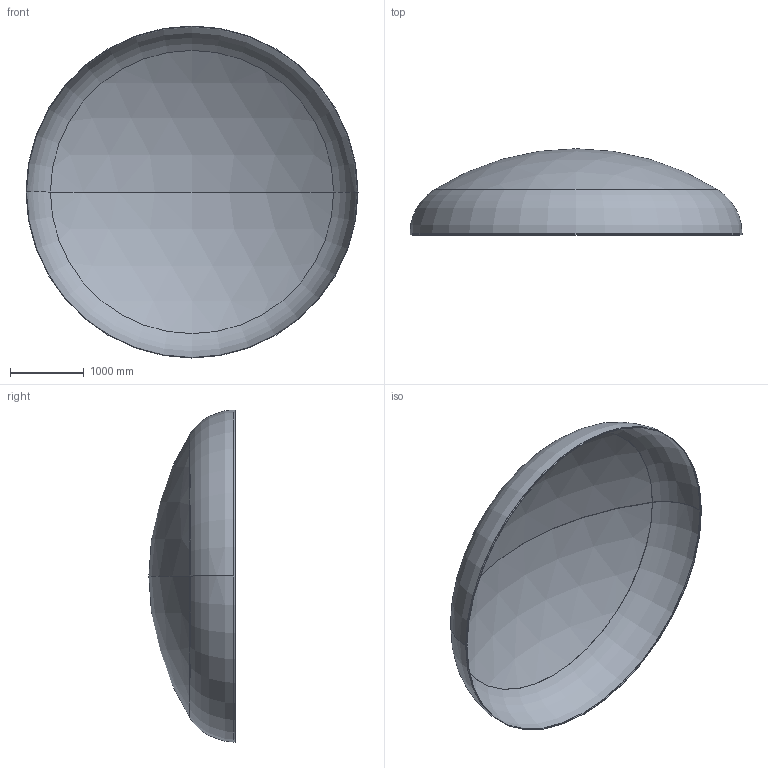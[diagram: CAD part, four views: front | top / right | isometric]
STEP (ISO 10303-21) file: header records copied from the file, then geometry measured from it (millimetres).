
FILE_DESCRIPTION (( 'STEP AP203' ), '1' );
FILE_NAME ('DIN 28013 Korbbogenform_-_Boden DIN 28013 - 4500 x 20 - I - s=6.step', '2016-07-01T22:58:20', ( '' ), ( '' ), 'SwSTEP 2.0', 'SolidWorks 2013', '' );
FILE_SCHEMA (( 'CONFIG_CONTROL_DESIGN' ));
Length unit declared in the file: millimetre
Products named in the file (1): DIN 28013 Korbbogenform_-_Boden DIN 28013 - 4500 x 20 - I - s=6
Bounding box: 4500 x 1168.44 x 4500 mm (x, y, z)
Volume: 133712867.5 mm3; surface area: 44655722.6 mm2
Topology: 1 solids, 1 shells, 13 faces, 24 edges, 14 vertices
Faces by surface type: torus 4, cylinder 4, sphere 4, plane 1
Entity records: 407 total; most frequent: DIRECTION 72, CARTESIAN_POINT 52, ORIENTED_EDGE 48, AXIS2_PLACEMENT_3D 34, EDGE_CURVE 24, CIRCLE 20, EDGE_LOOP 14, VERTEX_POINT 14
